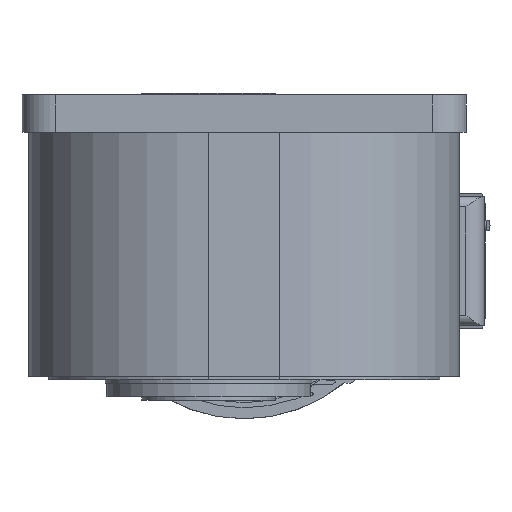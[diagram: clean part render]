
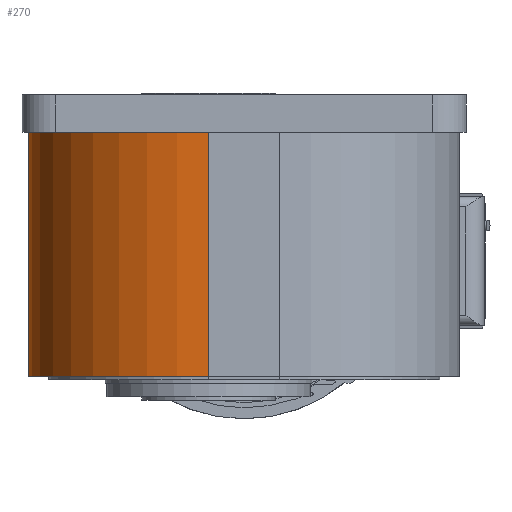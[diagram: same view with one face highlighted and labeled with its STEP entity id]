
A CAD part, left-side view. The second image highlights one B-rep face of the part: STEP entity #270.
In plain terms, the highlighted cylindrical face has radius 106 mm (diameter 212 mm), a partial arc.
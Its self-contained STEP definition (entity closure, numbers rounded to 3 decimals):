
#270 = ADVANCED_FACE( '', ( #1195 ), #1196, .T. );
#1195 = FACE_OUTER_BOUND( '', #3067, .T. );
#1196 = CYLINDRICAL_SURFACE( '', #3068, 106. );
#3067 = EDGE_LOOP( '', ( #5255, #5256, #5257, #5258 ) );
#3068 = AXIS2_PLACEMENT_3D( '', #5259, #5260, #5261 );
#5255 = ORIENTED_EDGE( '', *, *, #12372, .F. );
#5256 = ORIENTED_EDGE( '', *, *, #12439, .F. );
#5257 = ORIENTED_EDGE( '', *, *, #12430, .T. );
#5258 = ORIENTED_EDGE( '', *, *, #12440, .T. );
#5259 = CARTESIAN_POINT( '', ( -166., 0., -2.32 ) );
#5260 = DIRECTION( '', ( -1., 0., 0. ) );
#5261 = DIRECTION( '', ( 0., 0., -1. ) );
#12372 = EDGE_CURVE( '', #14901, #14903, #14904, .T. );
#12430 = EDGE_CURVE( '', #15002, #14999, #15003, .T. );
#12439 = EDGE_CURVE( '', #15002, #14901, #15017, .T. );
#12440 = EDGE_CURVE( '', #14999, #14903, #15018, .T. );
#14901 = VERTEX_POINT( '', #18929 );
#14903 = VERTEX_POINT( '', #18932 );
#14904 = CIRCLE( '', #18933, 106. );
#14999 = VERTEX_POINT( '', #19067 );
#15002 = VERTEX_POINT( '', #19071 );
#15003 = CIRCLE( '', #19072, 106. );
#15017 = LINE( '', #19091, #19092 );
#15018 = LINE( '', #19093, #19094 );
#18929 = CARTESIAN_POINT( '', ( -22., 106., -2.32 ) );
#18932 = CARTESIAN_POINT( '', ( -22., 0., 103.68 ) );
#18933 = AXIS2_PLACEMENT_3D( '', #24334, #24335, #24336 );
#19067 = CARTESIAN_POINT( '', ( -166., 0., 103.68 ) );
#19071 = CARTESIAN_POINT( '', ( -166., 106., -2.32 ) );
#19072 = AXIS2_PLACEMENT_3D( '', #24428, #24429, #24430 );
#19091 = CARTESIAN_POINT( '', ( -166., 106., -2.32 ) );
#19092 = VECTOR( '', #24445, 1000. );
#19093 = CARTESIAN_POINT( '', ( -166., 0., 103.68 ) );
#19094 = VECTOR( '', #24446, 1000. );
#24334 = CARTESIAN_POINT( '', ( -22., 0., -2.32 ) );
#24335 = DIRECTION( '', ( 1., 0., 0. ) );
#24336 = DIRECTION( '', ( 0., 0., -1. ) );
#24428 = CARTESIAN_POINT( '', ( -166., 0., -2.32 ) );
#24429 = DIRECTION( '', ( 1., 0., 0. ) );
#24430 = DIRECTION( '', ( 0., 0., -1. ) );
#24445 = DIRECTION( '', ( 1., 0., 0. ) );
#24446 = DIRECTION( '', ( 1., 0., 0. ) );
